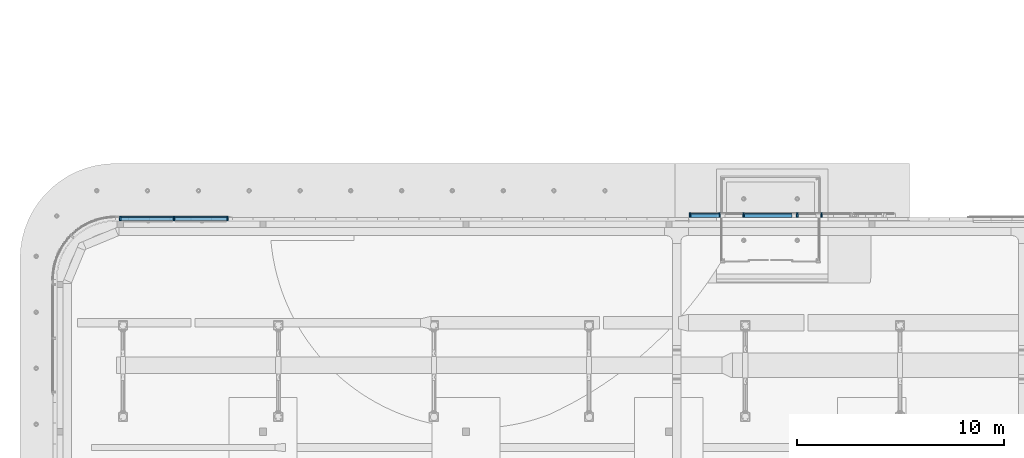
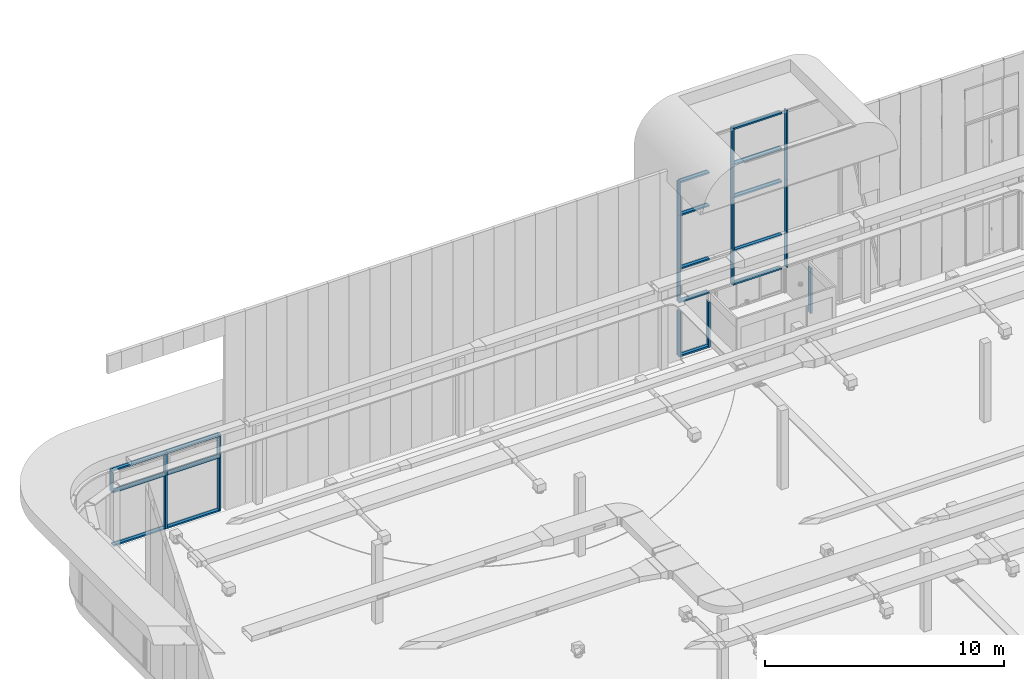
# One storey, part 66 of 302: 35 members, 2 elements without a shape of their own.
"""IFC2X3 building model written with IfcOpenShell, lengths in metres."""

from ifc_helpers import new_model, entity, si_unit, converted_unit, derived_unit, direction, frame, origin, place, context, subcontext, project, spatial, polyline, outline, extrude, source, transform, mapped, material, type_object, type_shapes, element, aggregate, save


model = new_model("IFC2X3")

# Units and contexts
model_context = context("Model", 3, precision=1e-05, world=origin(), true_north=direction((6.12303176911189e-17, 1.0)))
body_context = subcontext(model_context, "Body", "Model", "MODEL_VIEW")
ifc_project = project(units=[si_unit("LENGTHUNIT", "METRE"), si_unit("AREAUNIT", "SQUARE_METRE"), si_unit("VOLUMEUNIT", "CUBIC_METRE"), converted_unit("PLANEANGLEUNIT", "DEGREE", entity("IfcRatioMeasure", 0.0174532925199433), si_unit("PLANEANGLEUNIT", "RADIAN"), dimensions=[0, 0, 0, 0, 0, 0, 0]), si_unit("MASSUNIT", "GRAM", prefix="KILO"), derived_unit("MASSDENSITYUNIT", [(si_unit("MASSUNIT", "GRAM", prefix="KILO"), 1), (si_unit("LENGTHUNIT", "METRE"), -3)]), derived_unit("MOMENTOFINERTIAUNIT", [(si_unit("LENGTHUNIT", "METRE"), 4)]), si_unit("TIMEUNIT", "SECOND"), si_unit("FREQUENCYUNIT", "HERTZ"), si_unit("THERMODYNAMICTEMPERATUREUNIT", "DEGREE_CELSIUS"), derived_unit("THERMALTRANSMITTANCEUNIT", [(si_unit("MASSUNIT", "GRAM", prefix="KILO"), 1), (si_unit("THERMODYNAMICTEMPERATUREUNIT", "KELVIN"), -1), (si_unit("TIMEUNIT", "SECOND"), -3)]), derived_unit("VOLUMETRICFLOWRATEUNIT", [(si_unit("LENGTHUNIT", "METRE"), 3), (si_unit("TIMEUNIT", "SECOND"), -1)]), si_unit("ELECTRICCURRENTUNIT", "AMPERE"), si_unit("ELECTRICVOLTAGEUNIT", "VOLT"), si_unit("POWERUNIT", "WATT"), si_unit("FORCEUNIT", "NEWTON", prefix="KILO"), si_unit("ILLUMINANCEUNIT", "LUX"), si_unit("LUMINOUSFLUXUNIT", "LUMEN"), si_unit("LUMINOUSINTENSITYUNIT", "CANDELA"), derived_unit("USERDEFINED", [(si_unit("MASSUNIT", "GRAM", prefix="KILO"), -1), (si_unit("LENGTHUNIT", "METRE"), -2), (si_unit("TIMEUNIT", "SECOND"), 3), (si_unit("LUMINOUSFLUXUNIT", "LUMEN"), 1)]), derived_unit("LINEARVELOCITYUNIT", [(si_unit("LENGTHUNIT", "METRE"), 1), (si_unit("TIMEUNIT", "SECOND"), -1)]), si_unit("PRESSUREUNIT", "PASCAL"), derived_unit("USERDEFINED", [(si_unit("LENGTHUNIT", "METRE"), -2), (si_unit("MASSUNIT", "GRAM", prefix="KILO"), 1), (si_unit("TIMEUNIT", "SECOND"), -2)]), derived_unit("LINEARFORCEUNIT", [(si_unit("MASSUNIT", "GRAM", prefix="KILO"), 1), (si_unit("LENGTHUNIT", "METRE"), 1), (si_unit("TIMEUNIT", "SECOND"), -2), (si_unit("LENGTHUNIT", "METRE"), -1)]), derived_unit("PLANARFORCEUNIT", [(si_unit("MASSUNIT", "GRAM", prefix="KILO"), 1), (si_unit("LENGTHUNIT", "METRE"), 1), (si_unit("TIMEUNIT", "SECOND"), -2), (si_unit("LENGTHUNIT", "METRE"), -2)])], contexts=[model_context])

# Site, building, storey
site_placement = place(None, origin())
site = spatial("IfcSite", under=ifc_project, at=site_placement, Name="Default", CompositionType="ELEMENT")
building_placement = place(site_placement, origin())
building = spatial("IfcBuilding", under=site, at=building_placement, CompositionType="ELEMENT")
storey_placement = place(building_placement, frame((0.0, 0.0, -1.3)))
storey = spatial("IfcBuildingStorey", under=building, at=storey_placement, Name="00_EG", CompositionType="ELEMENT", Elevation=-1.3)

# Curtain wall, members
curtain_wall_type = type_object("IfcCurtainWallType", Name="Fassade:Glasfassade", PredefinedType="NOTDEFINED")
curtain_wall_1_placement = place(storey_placement, frame((0.0, 0.0, 1.3)))
curtain_wall_1 = element("IfcCurtainWall", 1, at=curtain_wall_1_placement, inside=storey, type_object=curtain_wall_type, Name="Fassade:Glasfassade", ObjectType="Fassade:Glasfassade")
ifc_material = material(Name="Prepainted_Steel-ArcelorMittal_Construction_HAIRULTRA-35-CORAL-4309-[RAL_3000]")
member_type_1 = type_object("IfcMemberType", Name="Rectangular Mullion:Fassadenrahmen Typ 1", PredefinedType="MULLION", material=ifc_material)
shared_shape_1 = source(origin(), body_context, "Body", "SweptSolid", [
    extrude(outline(polyline([(-0.065, -0.04), (-0.04, -0.04), (-0.04, -0.02), (-0.00499999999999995, -0.02), (-0.00499999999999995, -0.04), (0.155, -0.04), (0.155, 0.04), (-0.00499999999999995, 0.04), (-0.00499999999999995, 0.02), (-0.04, 0.02), (-0.04, 0.04), (-0.065, 0.04), (-0.065, -0.04)])), frame((0.0, 0.155, -1.38500000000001), z_axis=(0.0, 0.0, 1.0), x_axis=(0.0, -1.0, 0.0)), (0.0, 0.0, 1.0), 1.38500000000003),
])
type_shapes(member_type_1, [shared_shape_1])
member_1_placement = place(storey_placement, frame((-236.098861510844, 45.738088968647, 10.18), z_axis=(-1.0, 0.0, 0.0), x_axis=(0.0, 0.0, 1.0)))
member_1 = element("IfcMember", 2, at=member_1_placement, type_object=member_type_1, material=ifc_material, Name="Rectangular Mullion:Fassadenrahmen Typ 1", ObjectType="Rectangular Mullion:Fassadenrahmen Typ 1", context=body_context, shape_type="MappedRepresentation", body=[
    mapped(shared_shape_1, transform((0.0, 0.0, 0.0), scale=1.0)),
])
member_2_placement = place(storey_placement, frame((-236.098861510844, 45.738088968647, 8.49999999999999), z_axis=(-1.0, 0.0, 0.0), x_axis=(0.0, 0.0, 1.0)))
member_2 = element("IfcMember", 3, at=member_2_placement, type_object=member_type_1, material=ifc_material, Name="Rectangular Mullion:Fassadenrahmen Typ 1", ObjectType="Rectangular Mullion:Fassadenrahmen Typ 1", context=body_context, shape_type="MappedRepresentation", body=[
    mapped(shared_shape_1, transform((0.0, 0.0, 0.0), scale=1.0)),
])
member_3_placement = place(storey_placement, frame((-236.098861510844, 45.738088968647, 5.77), z_axis=(-1.0, 0.0, 0.0), x_axis=(0.0, 0.0, 1.0)))
member_3 = element("IfcMember", 4, at=member_3_placement, type_object=member_type_1, material=ifc_material, Name="Rectangular Mullion:Fassadenrahmen Typ 1", ObjectType="Rectangular Mullion:Fassadenrahmen Typ 1", context=body_context, shape_type="MappedRepresentation", body=[
    mapped(shared_shape_1, transform((0.0, 0.0, 0.0), scale=1.0)),
])
member_type_2 = type_object("IfcMemberType", Name="Rectangular Mullion:Fassadenrahmen Typ 1", PredefinedType="MULLION", material=ifc_material)
shared_shape_2 = source(origin(), body_context, "Body", "SweptSolid", [
    extrude(outline(polyline([(-0.065, -0.04), (-0.04, -0.04), (-0.04, -0.02), (-0.00499999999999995, -0.02), (-0.00499999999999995, -0.04), (0.155, -0.04), (0.155, 0.04), (-0.00499999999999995, 0.04), (-0.00499999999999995, 0.02), (-0.04, 0.02), (-0.04, 0.04), (-0.065, 0.04), (-0.065, -0.04)])), frame((0.0, 0.155, -1.74), z_axis=(0.0, 0.0, 1.0), x_axis=(0.0, -1.0, 0.0)), (0.0, 0.0, 1.0), 1.74),
])
type_shapes(member_type_2, [shared_shape_2])
member_4_placement = place(storey_placement, frame((-230.958861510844, 45.738088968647, 4.02999999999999), z_axis=(0.0, 0.0, -1.0), x_axis=(-1.0, 0.0, 0.0)))
member_4 = element("IfcMember", 5, at=member_4_placement, type_object=member_type_2, material=ifc_material, Name="Rectangular Mullion:Fassadenrahmen Typ 1", ObjectType="Rectangular Mullion:Fassadenrahmen Typ 1", context=body_context, shape_type="MappedRepresentation", body=[
    mapped(shared_shape_2, transform((0.0, 0.0, 0.0), scale=1.0)),
])
member_5_placement = place(storey_placement, frame((-233.548861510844, 45.738088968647, 4.02999999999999), z_axis=(0.0, 0.0, -1.0), x_axis=(-1.0, 0.0, 0.0)))
member_5 = element("IfcMember", 6, at=member_5_placement, type_object=member_type_2, material=ifc_material, Name="Rectangular Mullion:Fassadenrahmen Typ 1", ObjectType="Rectangular Mullion:Fassadenrahmen Typ 1", context=body_context, shape_type="MappedRepresentation", body=[
    mapped(shared_shape_2, transform((0.0, 0.0, 0.0), scale=1.0)),
])
member_type_3 = type_object("IfcMemberType", Name="Rectangular Mullion:Fassadenrahmen Typ 1", PredefinedType="MULLION", material=ifc_material)
shared_shape_3 = source(origin(), body_context, "Body", "SweptSolid", [
    extrude(outline(polyline([(-0.065, -0.04), (-0.04, -0.04), (-0.04, -0.02), (-0.00499999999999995, -0.02), (-0.00499999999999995, -0.04), (0.155, -0.04), (0.155, 0.04), (-0.00499999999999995, 0.04), (-0.00499999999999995, 0.02), (-0.04, 0.02), (-0.04, 0.04), (-0.065, 0.04), (-0.065, -0.04)])), frame((0.0, 0.155, -2.72999999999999), z_axis=(0.0, 0.0, 1.0), x_axis=(0.0, -1.0, 0.0)), (0.0, 0.0, 1.0), 2.72999999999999),
])
type_shapes(member_type_3, [shared_shape_3])
member_6_placement = place(storey_placement, frame((-230.958861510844, 45.738088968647, 5.77), z_axis=(0.0, 0.0, -1.0), x_axis=(-1.0, 0.0, 0.0)))
member_6 = element("IfcMember", 7, at=member_6_placement, type_object=member_type_3, material=ifc_material, Name="Rectangular Mullion:Fassadenrahmen Typ 1", ObjectType="Rectangular Mullion:Fassadenrahmen Typ 1", context=body_context, shape_type="MappedRepresentation", body=[
    mapped(shared_shape_3, transform((0.0, 0.0, 0.0), scale=1.0)),
])
member_7_placement = place(storey_placement, frame((-233.548861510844, 45.738088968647, 5.77), z_axis=(0.0, 0.0, -1.0), x_axis=(-1.0, 0.0, 0.0)))
member_7 = element("IfcMember", 8, at=member_7_placement, type_object=member_type_3, material=ifc_material, Name="Rectangular Mullion:Fassadenrahmen Typ 1", ObjectType="Rectangular Mullion:Fassadenrahmen Typ 1", context=body_context, shape_type="MappedRepresentation", body=[
    mapped(shared_shape_3, transform((0.0, 0.0, 0.0), scale=1.0)),
])
member_type_4 = type_object("IfcMemberType", Name="Rectangular Mullion:Fassadenrahmen Typ 1", PredefinedType="MULLION", material=ifc_material)
shared_shape_4 = source(origin(), body_context, "Body", "SweptSolid", [
    extrude(outline(polyline([(-0.065, -0.04), (-0.04, -0.04), (-0.04, -0.02), (-0.00499999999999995, -0.02), (-0.00499999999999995, -0.04), (0.155, -0.04), (0.155, 0.04), (-0.00499999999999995, 0.04), (-0.00499999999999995, 0.02), (-0.04, 0.02), (-0.04, 0.04), (-0.065, 0.04), (-0.065, -0.04)])), frame((0.0, 0.155, -1.68000000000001), z_axis=(0.0, 0.0, 1.0), x_axis=(0.0, -1.0, 0.0)), (0.0, 0.0, 1.0), 1.68000000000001),
])
type_shapes(member_type_4, [shared_shape_4])
member_8_placement = place(storey_placement, frame((-230.958861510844, 45.738088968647, 8.49999999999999), z_axis=(0.0, 0.0, -1.0), x_axis=(-1.0, 0.0, 0.0)))
member_8 = element("IfcMember", 9, at=member_8_placement, type_object=member_type_4, material=ifc_material, Name="Rectangular Mullion:Fassadenrahmen Typ 1", ObjectType="Rectangular Mullion:Fassadenrahmen Typ 1", context=body_context, shape_type="MappedRepresentation", body=[
    mapped(shared_shape_4, transform((0.0, 0.0, 0.0), scale=1.0)),
])
member_9_placement = place(storey_placement, frame((-233.548861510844, 45.738088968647, 8.49999999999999), z_axis=(0.0, 0.0, -1.0), x_axis=(-1.0, 0.0, 0.0)))
member_9 = element("IfcMember", 10, at=member_9_placement, type_object=member_type_4, material=ifc_material, Name="Rectangular Mullion:Fassadenrahmen Typ 1", ObjectType="Rectangular Mullion:Fassadenrahmen Typ 1", context=body_context, shape_type="MappedRepresentation", body=[
    mapped(shared_shape_4, transform((0.0, 0.0, 0.0), scale=1.0)),
])
member_type_5 = type_object("IfcMemberType", Name="Rectangular Mullion:Fassadenrahmen Typ 1", PredefinedType="MULLION", material=ifc_material)
shared_shape_5 = source(origin(), body_context, "Body", "SweptSolid", [
    extrude(outline(polyline([(-0.065, -0.04), (-0.04, -0.04), (-0.04, -0.02), (-0.00499999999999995, -0.02), (-0.00499999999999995, -0.04), (0.155, -0.04), (0.155, 0.04), (-0.00499999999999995, 0.04), (-0.00499999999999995, 0.02), (-0.04, 0.02), (-0.04, 0.04), (-0.065, 0.04), (-0.065, -0.04)])), frame((0.0, 0.155, -1.855), z_axis=(0.0, 0.0, 1.0), x_axis=(0.0, -1.0, 0.0)), (0.0, 0.0, 1.0), 1.855),
])
type_shapes(member_type_5, [shared_shape_5])
member_10_placement = place(storey_placement, frame((-230.958861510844, 45.738088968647, 10.18), z_axis=(0.0, 0.0, -1.0), x_axis=(-1.0, 0.0, 0.0)))
member_10 = element("IfcMember", 11, at=member_10_placement, type_object=member_type_5, material=ifc_material, Name="Rectangular Mullion:Fassadenrahmen Typ 1", ObjectType="Rectangular Mullion:Fassadenrahmen Typ 1", context=body_context, shape_type="MappedRepresentation", body=[
    mapped(shared_shape_5, transform((0.0, 0.0, 0.0), scale=1.0)),
])
member_11_placement = place(storey_placement, frame((-233.548861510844, 45.738088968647, 10.18), z_axis=(0.0, 0.0, -1.0), x_axis=(-1.0, 0.0, 0.0)))
member_11 = element("IfcMember", 12, at=member_11_placement, type_object=member_type_5, material=ifc_material, Name="Rectangular Mullion:Fassadenrahmen Typ 1", ObjectType="Rectangular Mullion:Fassadenrahmen Typ 1", context=body_context, shape_type="MappedRepresentation", body=[
    mapped(shared_shape_5, transform((0.0, 0.0, 0.0), scale=1.0)),
])
member_type_6 = type_object("IfcMemberType", Name="Rectangular Mullion:Fassadenrahmen Typ 1", PredefinedType="MULLION", material=ifc_material)
shared_shape_6 = source(origin(), body_context, "Body", "SweptSolid", [
    extrude(outline(polyline([(-0.065, -0.04), (-0.04, -0.04), (-0.04, -0.02), (-0.00499999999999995, -0.02), (-0.00499999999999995, -0.04), (0.155, -0.04), (0.155, 0.04), (-0.00499999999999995, 0.04), (-0.00499999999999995, 0.02), (-0.04, 0.02), (-0.04, 0.04), (-0.065, 0.04), (-0.065, -0.04)])), frame((0.0, 0.155, -2.30999999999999), z_axis=(0.0, 0.0, 1.0), x_axis=(0.0, -1.0, 0.0)), (0.0, 0.0, 1.0), 2.30999999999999),
])
type_shapes(member_type_6, [shared_shape_6])
member_12_placement = place(storey_placement, frame((-229.793861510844, 45.738088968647, 1.27), z_axis=(0.0, 0.0, -1.0), x_axis=(-1.0, 0.0, 0.0)))
member_12 = element("IfcMember", 13, at=member_12_placement, type_object=member_type_6, material=ifc_material, Name="Rectangular Mullion:Fassadenrahmen Typ 1", ObjectType="Rectangular Mullion:Fassadenrahmen Typ 1", context=body_context, shape_type="MappedRepresentation", body=[
    mapped(shared_shape_6, transform((0.0, 0.0, 0.0), scale=1.0)),
])
member_13_placement = place(storey_placement, frame((-234.713861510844, 45.738088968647, 1.27), z_axis=(0.0, 0.0, -1.0), x_axis=(-1.0, 0.0, 0.0)))
member_13 = element("IfcMember", 14, at=member_13_placement, type_object=member_type_6, material=ifc_material, Name="Rectangular Mullion:Fassadenrahmen Typ 1", ObjectType="Rectangular Mullion:Fassadenrahmen Typ 1", context=body_context, shape_type="MappedRepresentation", body=[
    mapped(shared_shape_6, transform((0.0, 0.0, 0.0), scale=1.0)),
])
member_type_7 = type_object("IfcMemberType", Name="Rectangular Mullion:Fassadenrahmen Typ 1", PredefinedType="MULLION", material=ifc_material)
shared_shape_7 = source(origin(), body_context, "Body", "SweptSolid", [
    extrude(outline(polyline([(-0.065, -0.04), (-0.04, -0.04), (-0.04, -0.02), (-0.00499999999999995, -0.02), (-0.00499999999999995, -0.04), (0.155, -0.04), (0.155, 0.04), (-0.00499999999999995, 0.04), (-0.00499999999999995, 0.02), (-0.04, 0.02), (-0.04, 0.04), (-0.065, 0.04), (-0.065, -0.04)])), frame((0.0, 0.155, -1.46500000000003), z_axis=(0.0, 0.0, 1.0), x_axis=(0.0, -1.0, 0.0)), (0.0, 0.0, 1.0), 1.46500000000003),
])
type_shapes(member_type_7, [shared_shape_7])
member_14_placement = place(storey_placement, frame((-236.178861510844, 45.738088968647, 4.06999999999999), z_axis=(-1.0, 0.0, 0.0), x_axis=(0.0, 0.0, 1.0)))
member_14 = element("IfcMember", 15, at=member_14_placement, type_object=member_type_7, material=ifc_material, Name="Rectangular Mullion:Fassadenrahmen Typ 1", ObjectType="Rectangular Mullion:Fassadenrahmen Typ 1", context=body_context, shape_type="MappedRepresentation", body=[
    mapped(shared_shape_7, transform((0.0, 0.0, 0.0), scale=1.0)),
])
member_type_8 = type_object("IfcMemberType", Name="Rectangular Mullion:Fassadenrahmen Typ 1", PredefinedType="MULLION", material=ifc_material)
shared_shape_8 = source(origin(), body_context, "Body", "SweptSolid", [
    extrude(outline(polyline([(-0.065, -0.04), (-0.04, -0.04), (-0.04, -0.02), (-0.00499999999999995, -0.02), (-0.00499999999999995, -0.04), (0.155, -0.04), (0.155, 0.04), (-0.00499999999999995, 0.04), (-0.00499999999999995, 0.02), (-0.04, 0.02), (-0.04, 0.04), (-0.065, 0.04), (-0.065, -0.04)])), frame((-0.04, 0.155, -2.30089174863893), z_axis=(0.0, 0.0, 1.0), x_axis=(0.0, -1.0, 0.0)), (0.0, 0.0, 1.0), 2.30089174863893),
])
type_shapes(member_type_8, [shared_shape_8])
member_15_placement = place(storey_placement, frame((-233.508861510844, 45.738088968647, 12.035), z_axis=(-1.0, 0.0, 0.0), x_axis=(0.0, 0.0, 1.0)))
member_15 = element("IfcMember", 16, at=member_15_placement, type_object=member_type_8, material=ifc_material, Name="Rectangular Mullion:Fassadenrahmen Typ 1", ObjectType="Rectangular Mullion:Fassadenrahmen Typ 1", context=body_context, shape_type="MappedRepresentation", body=[
    mapped(shared_shape_8, transform((0.0, 0.0, 0.0), scale=1.0)),
])
member_type_9 = type_object("IfcMemberType", Name="Rectangular Mullion:Fassadenrahmen Typ 1", PredefinedType="MULLION", material=ifc_material)
shared_shape_9 = source(origin(), body_context, "Body", "SweptSolid", [
    extrude(outline(polyline([(-0.065, -0.04), (-0.04, -0.04), (-0.04, -0.02), (-0.00499999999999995, -0.02), (-0.00499999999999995, -0.04), (0.155, -0.04), (0.155, 0.04), (-0.00499999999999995, 0.04), (-0.00499999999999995, 0.02), (-0.04, 0.02), (-0.04, 0.04), (-0.065, 0.04), (-0.065, -0.04)])), frame((-0.04, 0.155, -1.66), z_axis=(0.0, 0.0, 1.0), x_axis=(0.0, -1.0, 0.0)), (0.0, 0.0, 1.0), 1.66),
])
type_shapes(member_type_9, [shared_shape_9])
member_16_placement = place(storey_placement, frame((-236.178861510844, 45.738088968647, 4.10999999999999), z_axis=(0.0, 0.0, -1.0), x_axis=(-1.0, 0.0, 0.0)))
member_16 = element("IfcMember", 17, at=member_16_placement, type_object=member_type_9, material=ifc_material, Name="Rectangular Mullion:Fassadenrahmen Typ 1", ObjectType="Rectangular Mullion:Fassadenrahmen Typ 1", context=body_context, shape_type="MappedRepresentation", body=[
    mapped(shared_shape_9, transform((0.0, 0.0, 0.0), scale=1.0)),
])
member_type_10 = type_object("IfcMemberType", Name="Rectangular Mullion:Fassadenrahmen Typ 1", PredefinedType="MULLION", material=ifc_material)
shared_shape_10 = source(origin(), body_context, "Body", "SweptSolid", [
    extrude(outline(polyline([(-0.065, -0.04), (-0.04, -0.04), (-0.04, -0.02), (-0.00499999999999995, -0.02), (-0.00499999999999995, -0.04), (0.155, -0.04), (0.155, 0.04), (-0.00499999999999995, 0.04), (-0.00499999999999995, 0.02), (-0.04, 0.02), (-0.04, 0.04), (-0.065, 0.04), (-0.065, -0.04)])), frame((-0.04, 0.155, -2.72999999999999), z_axis=(0.0, 0.0, 1.0), x_axis=(0.0, -1.0, 0.0)), (0.0, 0.0, 1.0), 2.72999999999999),
])
type_shapes(member_type_10, [shared_shape_10])
member_17_placement = place(storey_placement, frame((-236.178861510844, 45.738088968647, 5.77), z_axis=(0.0, 0.0, -1.0), x_axis=(-1.0, 0.0, 0.0)))
member_17 = element("IfcMember", 18, at=member_17_placement, type_object=member_type_10, material=ifc_material, Name="Rectangular Mullion:Fassadenrahmen Typ 1", ObjectType="Rectangular Mullion:Fassadenrahmen Typ 1", context=body_context, shape_type="MappedRepresentation", body=[
    mapped(shared_shape_10, transform((0.0, 0.0, 0.0), scale=1.0)),
])
member_type_11 = type_object("IfcMemberType", Name="Rectangular Mullion:Fassadenrahmen Typ 1", PredefinedType="MULLION", material=ifc_material)
shared_shape_11 = source(origin(), body_context, "Body", "SweptSolid", [
    extrude(outline(polyline([(-0.065, -0.04), (-0.04, -0.04), (-0.04, -0.02), (-0.00499999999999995, -0.02), (-0.00499999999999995, -0.04), (0.155, -0.04), (0.155, 0.04), (-0.00499999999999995, 0.04), (-0.00499999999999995, 0.02), (-0.04, 0.02), (-0.04, 0.04), (-0.065, 0.04), (-0.065, -0.04)])), frame((-0.04, 0.155, -1.68000000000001), z_axis=(0.0, 0.0, 1.0), x_axis=(0.0, -1.0, 0.0)), (0.0, 0.0, 1.0), 1.68000000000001),
])
type_shapes(member_type_11, [shared_shape_11])
member_18_placement = place(storey_placement, frame((-236.178861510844, 45.738088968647, 8.49999999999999), z_axis=(0.0, 0.0, -1.0), x_axis=(-1.0, 0.0, 0.0)))
member_18 = element("IfcMember", 19, at=member_18_placement, type_object=member_type_11, material=ifc_material, Name="Rectangular Mullion:Fassadenrahmen Typ 1", ObjectType="Rectangular Mullion:Fassadenrahmen Typ 1", context=body_context, shape_type="MappedRepresentation", body=[
    mapped(shared_shape_11, transform((0.0, 0.0, 0.0), scale=1.0)),
])
member_type_12 = type_object("IfcMemberType", Name="Rectangular Mullion:Fassadenrahmen Typ 1", PredefinedType="MULLION", material=ifc_material)
shared_shape_12 = source(origin(), body_context, "Body", "SweptSolid", [
    extrude(outline(polyline([(-0.065, -0.04), (-0.04, -0.04), (-0.04, -0.02), (-0.00499999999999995, -0.02), (-0.00499999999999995, -0.04), (0.155, -0.04), (0.155, 0.04), (-0.00499999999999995, 0.04), (-0.00499999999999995, 0.02), (-0.04, 0.02), (-0.04, 0.04), (-0.065, 0.04), (-0.065, -0.04)])), frame((-0.04, 0.155, -2.30999999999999), z_axis=(0.0, 0.0, 1.0), x_axis=(0.0, -1.0, 0.0)), (0.0, 0.0, 1.0), 2.30999999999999),
])
type_shapes(member_type_12, [shared_shape_12])
member_19_placement = place(storey_placement, frame((-236.178861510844, 45.738088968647, 1.27), z_axis=(0.0, 0.0, -1.0), x_axis=(-1.0, 0.0, 0.0)))
member_19 = element("IfcMember", 20, at=member_19_placement, type_object=member_type_12, material=ifc_material, Name="Rectangular Mullion:Fassadenrahmen Typ 1", ObjectType="Rectangular Mullion:Fassadenrahmen Typ 1", context=body_context, shape_type="MappedRepresentation", body=[
    mapped(shared_shape_12, transform((0.0, 0.0, 0.0), scale=1.0)),
])
member_type_13 = type_object("IfcMemberType", Name="Rectangular Mullion:Fassadenrahmen Typ 1", PredefinedType="MULLION", material=ifc_material)
shared_shape_13 = source(origin(), body_context, "Body", "SweptSolid", [
    extrude(outline(polyline([(-0.0649999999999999, -0.04), (-0.04, -0.04), (-0.04, -0.02), (-0.00499999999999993, -0.02), (-0.00499999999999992, -0.04), (0.155, -0.0399999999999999), (0.155, 0.0400000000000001), (-0.00499999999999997, 0.04), (-0.00499999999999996, 0.02), (-0.04, 0.02), (-0.04, 0.04), (-0.065, 0.0399999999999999), (-0.0649999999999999, -0.04)])), frame((-0.04, 0.155, -1.34500000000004), z_axis=(0.0, 0.0, 1.0), x_axis=(0.0, -1.0, 0.0)), (0.0, 0.0, 1.0), 1.34500000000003),
])
type_shapes(member_type_13, [shared_shape_13])
member_20_placement = place(storey_placement, frame((-234.753861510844, 45.738088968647, 1.27), z_axis=(1.0, 0.0, 0.0), x_axis=(0.0, 0.0, -1.0)))
member_20 = element("IfcMember", 21, at=member_20_placement, type_object=member_type_13, material=ifc_material, Name="Rectangular Mullion:Fassadenrahmen Typ 1", ObjectType="Rectangular Mullion:Fassadenrahmen Typ 1", context=body_context, shape_type="MappedRepresentation", body=[
    mapped(shared_shape_13, transform((0.0, 0.0, 0.0), scale=1.0)),
])
member_type_14 = type_object("IfcMemberType", Name="Rectangular Mullion:Fassadenrahmen Typ 1", PredefinedType="MULLION", material=ifc_material)
shared_shape_14 = source(origin(), body_context, "Body", "SweptSolid", [
    extrude(outline(polyline([(-0.065, -0.04), (-0.04, -0.04), (-0.04, -0.02), (-0.00499999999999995, -0.02), (-0.00499999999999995, -0.04), (0.155, -0.04), (0.155, 0.04), (-0.00499999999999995, 0.04), (-0.00499999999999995, 0.02), (-0.04, 0.02), (-0.04, 0.04), (-0.065, 0.04), (-0.065, -0.04)])), frame((0.0, 0.155, -2.30089174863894), z_axis=(0.0, 0.0, 1.0), x_axis=(0.0, -1.0, 0.0)), (0.0, 0.0, 1.0), 2.30089174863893),
])
type_shapes(member_type_14, [shared_shape_14])
member_21_placement = place(storey_placement, frame((-233.508861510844, 45.738088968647, 10.18), z_axis=(-1.0, 0.0, 0.0), x_axis=(0.0, 0.0, 1.0)))
member_21 = element("IfcMember", 22, at=member_21_placement, type_object=member_type_14, material=ifc_material, Name="Rectangular Mullion:Fassadenrahmen Typ 1", ObjectType="Rectangular Mullion:Fassadenrahmen Typ 1", context=body_context, shape_type="MappedRepresentation", body=[
    mapped(shared_shape_14, transform((0.0, 0.0, 0.0), scale=1.0)),
])
member_22_placement = place(storey_placement, frame((-233.508861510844, 45.738088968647, 8.49999999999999), z_axis=(-1.0, 0.0, 0.0), x_axis=(0.0, 0.0, 1.0)))
member_22 = element("IfcMember", 23, at=member_22_placement, type_object=member_type_14, material=ifc_material, Name="Rectangular Mullion:Fassadenrahmen Typ 1", ObjectType="Rectangular Mullion:Fassadenrahmen Typ 1", context=body_context, shape_type="MappedRepresentation", body=[
    mapped(shared_shape_14, transform((0.0, 0.0, 0.0), scale=1.0)),
])
member_23_placement = place(storey_placement, frame((-233.508861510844, 45.738088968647, 5.77), z_axis=(-1.0, 0.0, 0.0), x_axis=(0.0, 0.0, 1.0)))
member_23 = element("IfcMember", 24, at=member_23_placement, type_object=member_type_14, material=ifc_material, Name="Rectangular Mullion:Fassadenrahmen Typ 1", ObjectType="Rectangular Mullion:Fassadenrahmen Typ 1", context=body_context, shape_type="MappedRepresentation", body=[
    mapped(shared_shape_14, transform((0.0, 0.0, 0.0), scale=1.0)),
])
member_24_placement = place(storey_placement, frame((-233.508861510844, 45.738088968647, 4.06999999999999), z_axis=(-1.0, 0.0, 0.0), x_axis=(0.0, 0.0, 1.0)))
member_24 = element("IfcMember", 25, at=member_24_placement, type_object=member_type_14, material=ifc_material, Name="Rectangular Mullion:Fassadenrahmen Typ 1", ObjectType="Rectangular Mullion:Fassadenrahmen Typ 1", context=body_context, shape_type="MappedRepresentation", body=[
    mapped(shared_shape_14, transform((0.0, 0.0, 0.0), scale=1.0)),
])
aggregate(curtain_wall_1, [member_1, member_4, member_6, member_8, member_10, member_5, member_7, member_9, member_11, member_2, member_3, member_14, member_12, member_13, member_15, member_16, member_17, member_18, member_19, member_20, member_21, member_22, member_23, member_24])

curtain_wall_2_placement = place(storey_placement, frame((0.0, 0.0, 1.3)))
curtain_wall_2 = element("IfcCurtainWall", 26, at=curtain_wall_2_placement, inside=storey, type_object=curtain_wall_type, Name="Fassade:Glasfassade", ObjectType="Fassade:Glasfassade")
member_type_15 = type_object("IfcMemberType", Name="Rectangular Mullion:Fassadenrahmen Typ 1", PredefinedType="MULLION", material=ifc_material)
shared_shape_15 = source(origin(), body_context, "Body", "SweptSolid", [
    extrude(outline(polyline([(-0.155, -0.04), (0.00499999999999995, -0.04), (0.00499999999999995, -0.02), (0.04, -0.02), (0.04, -0.04), (0.065, -0.04), (0.065, 0.04), (0.04, 0.04), (0.04, 0.02), (0.00499999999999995, 0.02), (0.00499999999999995, 0.04), (-0.155, 0.04), (-0.155, -0.04)])), frame((0.0, -0.155, -2.76999999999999), z_axis=(0.0, 0.0, 1.0), x_axis=(0.0, -1.0, 0.0)), (0.0, 0.0, 1.0), 2.76999999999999),
])
type_shapes(member_type_15, [shared_shape_15])
member_25_placement = place(storey_placement, frame((-261.01611364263, 45.578088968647, 1.29999999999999), z_axis=(0.0, 0.0, -1.0), x_axis=(1.0, 0.0, 0.0)))
member_25 = element("IfcMember", 27, at=member_25_placement, type_object=member_type_15, material=ifc_material, Name="Rectangular Mullion:Fassadenrahmen Typ 1", ObjectType="Rectangular Mullion:Fassadenrahmen Typ 1", context=body_context, shape_type="MappedRepresentation", body=[
    mapped(shared_shape_15, transform((0.0, 0.0, 0.0), scale=1.0)),
])
member_type_16 = type_object("IfcMemberType", Name="Rectangular Mullion:Fassadenrahmen Typ 1", PredefinedType="MULLION", material=ifc_material)
shared_shape_16 = source(origin(), body_context, "Body", "SweptSolid", [
    extrude(outline(polyline([(-0.155, -0.04), (0.00499999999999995, -0.04), (0.00499999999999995, -0.02), (0.04, -0.02), (0.04, -0.04), (0.065, -0.04), (0.065, 0.04), (0.04, 0.04), (0.04, 0.02), (0.00499999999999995, 0.02), (0.00499999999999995, 0.04), (-0.155, 0.04), (-0.155, -0.04)])), frame((0.0, -0.155, -2.51000000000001), z_axis=(0.0, 0.0, 1.0), x_axis=(0.0, -1.0, 0.0)), (0.0, 0.0, 1.0), 2.51),
])
type_shapes(member_type_16, [shared_shape_16])
member_26_placement = place(storey_placement, frame((-261.05611364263, 45.578088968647, 4.06999999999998), z_axis=(1.0, 0.0, 0.0), x_axis=(0.0, 0.0, 1.0)))
member_26 = element("IfcMember", 28, at=member_26_placement, type_object=member_type_16, material=ifc_material, Name="Rectangular Mullion:Fassadenrahmen Typ 1", ObjectType="Rectangular Mullion:Fassadenrahmen Typ 1", context=body_context, shape_type="MappedRepresentation", body=[
    mapped(shared_shape_16, transform((0.0, 0.0, 0.0), scale=1.0)),
])
member_27_placement = place(storey_placement, frame((-258.46611364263, 45.578088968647, 4.06999999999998), z_axis=(1.0, 0.0, 0.0), x_axis=(0.0, 0.0, 1.0)))
member_27 = element("IfcMember", 29, at=member_27_placement, type_object=member_type_16, material=ifc_material, Name="Rectangular Mullion:Fassadenrahmen Typ 1", ObjectType="Rectangular Mullion:Fassadenrahmen Typ 1", context=body_context, shape_type="MappedRepresentation", body=[
    mapped(shared_shape_16, transform((0.0, 0.0, 0.0), scale=1.0)),
])
member_type_17 = type_object("IfcMemberType", Name="Rectangular Mullion:Fassadenrahmen Typ 1", PredefinedType="MULLION", material=ifc_material)
shared_shape_17 = source(origin(), body_context, "Body", "SweptSolid", [
    extrude(outline(polyline([(-0.155, -0.04), (0.00499999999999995, -0.04), (0.00499999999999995, -0.02), (0.04, -0.02), (0.04, -0.04), (0.065, -0.04), (0.065, 0.04), (0.04, 0.04), (0.04, 0.02), (0.00499999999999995, 0.02), (0.00499999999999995, 0.04), (-0.155, 0.04), (-0.155, -0.04)])), frame((-0.04, -0.155, -2.51000000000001), z_axis=(0.0, 0.0, 1.0), x_axis=(0.0, -1.0, 0.0)), (0.0, 0.0, 1.0), 2.51),
])
type_shapes(member_type_17, [shared_shape_17])
member_28_placement = place(storey_placement, frame((-261.05611364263, 45.578088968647, 5.21), z_axis=(1.0, 0.0, 0.0), x_axis=(0.0, 0.0, 1.0)))
member_28 = element("IfcMember", 30, at=member_28_placement, type_object=member_type_17, material=ifc_material, Name="Rectangular Mullion:Fassadenrahmen Typ 1", ObjectType="Rectangular Mullion:Fassadenrahmen Typ 1", context=body_context, shape_type="MappedRepresentation", body=[
    mapped(shared_shape_17, transform((0.0, 0.0, 0.0), scale=1.0)),
])
member_29_placement = place(storey_placement, frame((-258.46611364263, 45.578088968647, 5.21), z_axis=(1.0, 0.0, 0.0), x_axis=(0.0, 0.0, 1.0)))
member_29 = element("IfcMember", 31, at=member_29_placement, type_object=member_type_17, material=ifc_material, Name="Rectangular Mullion:Fassadenrahmen Typ 1", ObjectType="Rectangular Mullion:Fassadenrahmen Typ 1", context=body_context, shape_type="MappedRepresentation", body=[
    mapped(shared_shape_17, transform((0.0, 0.0, 0.0), scale=1.0)),
])
member_type_18 = type_object("IfcMemberType", Name="Rectangular Mullion:Fassadenrahmen Typ 1", PredefinedType="MULLION", material=ifc_material)
shared_shape_18 = source(origin(), body_context, "Body", "SweptSolid", [
    extrude(outline(polyline([(-0.155, -0.04), (0.00499999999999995, -0.04), (0.00499999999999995, -0.02), (0.04, -0.02), (0.04, -0.04), (0.065, -0.04), (0.065, 0.04), (0.04, 0.04), (0.04, 0.02), (0.00499999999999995, 0.02), (0.00499999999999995, 0.04), (-0.155, 0.04), (-0.155, -0.04)])), frame((-0.04, -0.155, -2.51000000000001), z_axis=(0.0, 0.0, 1.0), x_axis=(0.0, -1.0, 0.0)), (0.0, 0.0, 1.0), 2.51),
])
type_shapes(member_type_18, [shared_shape_18])
member_30_placement = place(storey_placement, frame((-263.56611364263, 45.578088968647, 1.29999999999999), z_axis=(-1.0, 0.0, 0.0), x_axis=(0.0, 0.0, -1.0)))
member_30 = element("IfcMember", 32, at=member_30_placement, type_object=member_type_18, material=ifc_material, Name="Rectangular Mullion:Fassadenrahmen Typ 1", ObjectType="Rectangular Mullion:Fassadenrahmen Typ 1", context=body_context, shape_type="MappedRepresentation", body=[
    mapped(shared_shape_18, transform((0.0, 0.0, 0.0), scale=1.0)),
])
member_31_placement = place(storey_placement, frame((-260.97611364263, 45.578088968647, 1.29999999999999), z_axis=(-1.0, 0.0, 0.0), x_axis=(0.0, 0.0, -1.0)))
member_31 = element("IfcMember", 33, at=member_31_placement, type_object=member_type_18, material=ifc_material, Name="Rectangular Mullion:Fassadenrahmen Typ 1", ObjectType="Rectangular Mullion:Fassadenrahmen Typ 1", context=body_context, shape_type="MappedRepresentation", body=[
    mapped(shared_shape_18, transform((0.0, 0.0, 0.0), scale=1.0)),
])
member_type_19 = type_object("IfcMemberType", Name="Rectangular Mullion:Fassadenrahmen Typ 1", PredefinedType="MULLION", material=ifc_material)
shared_shape_19 = source(origin(), body_context, "Body", "SweptSolid", [
    extrude(outline(polyline([(-0.155, -0.04), (0.00499999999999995, -0.04), (0.00499999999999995, -0.02), (0.04, -0.02), (0.04, -0.04), (0.065, -0.04), (0.065, 0.04), (0.04, 0.04), (0.04, 0.02), (0.00499999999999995, 0.02), (0.00499999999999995, 0.04), (-0.155, 0.04), (-0.155, -0.04)])), frame((-0.04, -0.155, -2.76999999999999), z_axis=(0.0, 0.0, 1.0), x_axis=(0.0, -1.0, 0.0)), (0.0, 0.0, 1.0), 2.76999999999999),
])
type_shapes(member_type_19, [shared_shape_19])
member_32_placement = place(storey_placement, frame((-258.38611364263, 45.578088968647, 1.29999999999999), z_axis=(0.0, 0.0, -1.0), x_axis=(1.0, 0.0, 0.0)))
member_32 = element("IfcMember", 34, at=member_32_placement, type_object=member_type_19, material=ifc_material, Name="Rectangular Mullion:Fassadenrahmen Typ 1", ObjectType="Rectangular Mullion:Fassadenrahmen Typ 1", context=body_context, shape_type="MappedRepresentation", body=[
    mapped(shared_shape_19, transform((0.0, 0.0, 0.0), scale=1.0)),
])
member_type_20 = type_object("IfcMemberType", Name="Rectangular Mullion:Fassadenrahmen Typ 1", PredefinedType="MULLION", material=ifc_material)
shared_shape_20 = source(origin(), body_context, "Body", "SweptSolid", [
    extrude(outline(polyline([(-0.155, -0.04), (0.00499999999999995, -0.04), (0.00499999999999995, -0.02), (0.04, -0.02), (0.04, -0.04), (0.065, -0.04), (0.065, 0.04), (0.04, 0.04), (0.04, 0.02), (0.00499999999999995, 0.02), (0.00499999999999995, 0.04), (-0.155, 0.04), (-0.155, -0.04)])), frame((-0.04, -0.155, -1.14000000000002), z_axis=(0.0, 0.0, 1.0), x_axis=(0.0, -1.0, 0.0)), (0.0, 0.0, 1.0), 1.14000000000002),
])
type_shapes(member_type_20, [shared_shape_20])
member_33_placement = place(storey_placement, frame((-258.38611364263, 45.578088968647, 4.06999999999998), z_axis=(0.0, 0.0, -1.0), x_axis=(1.0, 0.0, 0.0)))
member_33 = element("IfcMember", 35, at=member_33_placement, type_object=member_type_20, material=ifc_material, Name="Rectangular Mullion:Fassadenrahmen Typ 1", ObjectType="Rectangular Mullion:Fassadenrahmen Typ 1", context=body_context, shape_type="MappedRepresentation", body=[
    mapped(shared_shape_20, transform((0.0, 0.0, 0.0), scale=1.0)),
])
member_type_21 = type_object("IfcMemberType", Name="Rectangular Mullion:Fassadenrahmen Typ 1", PredefinedType="MULLION", material=ifc_material)
shared_shape_21 = source(origin(), body_context, "Body", "SweptSolid", [
    extrude(outline(polyline([(-0.155, -0.04), (0.00499999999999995, -0.04), (0.00499999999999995, -0.02), (0.04, -0.02), (0.04, -0.04), (0.065, -0.04), (0.065, 0.04), (0.04, 0.04), (0.04, 0.02), (0.00499999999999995, 0.02), (0.00499999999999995, 0.04), (-0.155, 0.04), (-0.155, -0.04)])), frame((0.0, -0.155, -1.14000000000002), z_axis=(0.0, 0.0, 1.0), x_axis=(0.0, -1.0, 0.0)), (0.0, 0.0, 1.0), 1.14000000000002),
])
type_shapes(member_type_21, [shared_shape_21])
member_34_placement = place(storey_placement, frame((-261.01611364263, 45.578088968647, 4.06999999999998), z_axis=(0.0, 0.0, -1.0), x_axis=(1.0, 0.0, 0.0)))
member_34 = element("IfcMember", 36, at=member_34_placement, type_object=member_type_21, material=ifc_material, Name="Rectangular Mullion:Fassadenrahmen Typ 1", ObjectType="Rectangular Mullion:Fassadenrahmen Typ 1", context=body_context, shape_type="MappedRepresentation", body=[
    mapped(shared_shape_21, transform((0.0, 0.0, 0.0), scale=1.0)),
])
member_35_placement = place(storey_placement, frame((-263.60611364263, 45.578088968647, 4.06999999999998), z_axis=(0.0, 0.0, -1.0), x_axis=(1.0, 0.0, 0.0)))
member_35 = element("IfcMember", 37, at=member_35_placement, type_object=member_type_21, material=ifc_material, Name="Rectangular Mullion:Fassadenrahmen Typ 1", ObjectType="Rectangular Mullion:Fassadenrahmen Typ 1", context=body_context, shape_type="MappedRepresentation", body=[
    mapped(shared_shape_21, transform((0.0, 0.0, 0.0), scale=1.0)),
])
aggregate(curtain_wall_2, [member_25, member_33, member_34, member_35, member_26, member_27, member_30, member_31, member_32, member_28, member_29])

save(model, "model.ifc")
